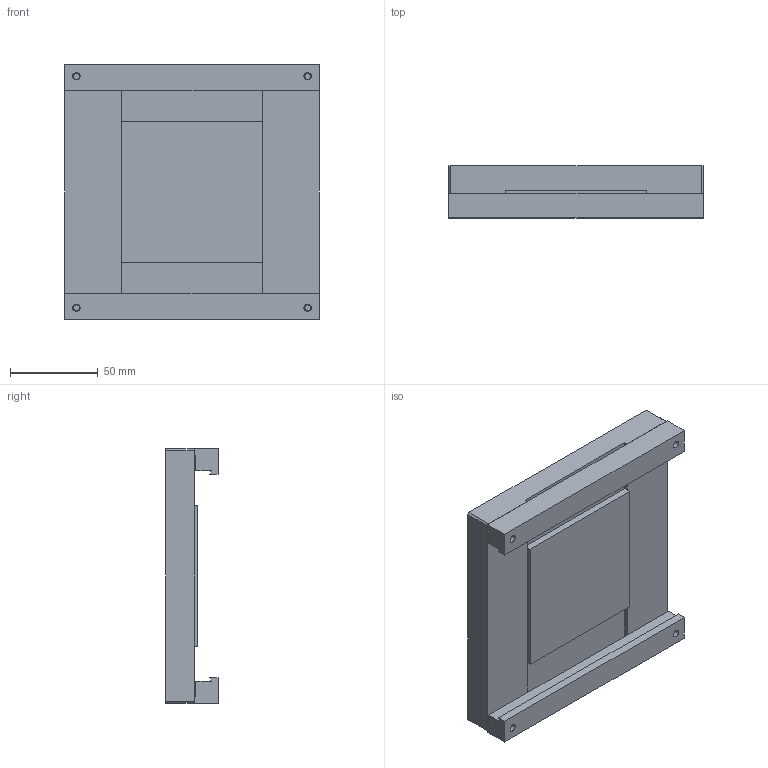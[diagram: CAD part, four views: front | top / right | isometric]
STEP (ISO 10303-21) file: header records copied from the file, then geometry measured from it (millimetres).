
FILE_DESCRIPTION (( 'STEP AP203' ), '1' );
FILE_NAME ('Montageplatte M120.STEP', '2004-11-26T15:52:11', ( '' ), ( '' ), 'SwSTEP 2.0', 'SolidWorks 2004073', '' );
FILE_SCHEMA (( 'CONFIG_CONTROL_DESIGN' ));
Length unit declared in the file: millimetre
Products named in the file (5): Montageplatte M120; Montageplatte -+-D005496_ _PDB_050715; SC-912_M 5 x 20; Bestimmplatte-+-D007861_ _PDB_050708; Klemmleiste ge. 120-+-D005592_ _PDB_50705
Assembly tree (8 placements, depth 2):
  Montageplatte M120
    Bestimmplatte-+-D007861_ _PDB_050708
    SC-912_M 5 x 20  x4
    Klemmleiste ge. 120-+-D005592_ _PDB_50705  x2
    Montageplatte -+-D005496_ _PDB_050715
Bounding box: 145 x 29.7 x 145 mm (x, y, z)
Volume: 387963.8 mm3; surface area: 87291.9 mm2
Topology: 8 solids, 8 shells, 172 faces, 384 edges, 240 vertices
Faces by surface type: plane 108, cylinder 40, cone 16, torus 8
Entity records: 2945 total; most frequent: DIRECTION 424, CARTESIAN_POINT 397, ORIENTED_EDGE 372, EDGE_CURVE 186, AXIS2_PLACEMENT_3D 147, VECTOR 130, LINE 130, VERTEX_POINT 120
